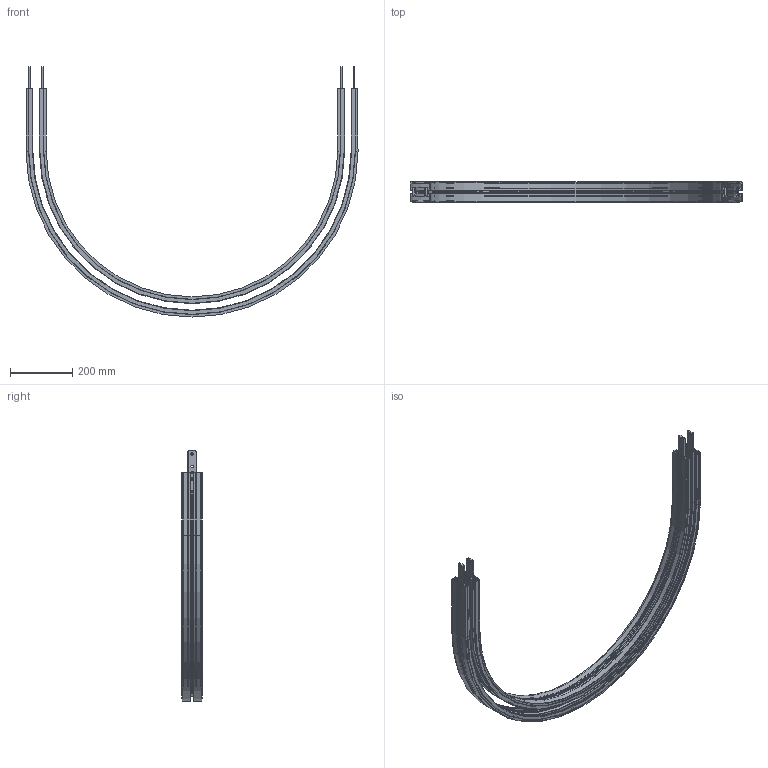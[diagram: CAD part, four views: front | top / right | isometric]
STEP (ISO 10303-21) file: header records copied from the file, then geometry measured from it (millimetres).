
FILE_DESCRIPTION (( 'STEP AP214' ), '1' );
FILE_NAME ('FSHB-180R500.STEP', '2012-03-21T13:18:39', ( 'gs' ), ( 'Microsoft' ), 'SwSTEP 2.0', 'SolidWorks 2011', '' );
FILE_SCHEMA (( 'AUTOMOTIVE_DESIGN' ));
Length unit declared in the file: millimetre
Products named in the file (4): FACS-25.éclisse larg 25mm_Default; FASR-25 U FS_180R500; FSHB R500_180R500; FSHB-180R500
Assembly tree (7 placements, depth 2):
  FSHB-180R500
    FSHB R500_180R500
    FACS-25.éclisse larg 25mm_Default  x4
    FASR-25 U FS_180R500  x2
Bounding box: 1065 x 66 x 802.5 mm (x, y, z)
Volume: 1795975.5 mm3; surface area: 1841335.6 mm2
Topology: 14 solids, 14 shells, 711 faces, 1901 edges, 1218 vertices
Faces by surface type: plane 340, cylinder 254, torus 73, cone 44
Entity records: 17010 total; most frequent: DIRECTION 2938, CARTESIAN_POINT 2892, ORIENTED_EDGE 2864, EDGE_CURVE 1432, VECTOR 986, LINE 986, AXIS2_PLACEMENT_3D 976, VERTEX_POINT 930
